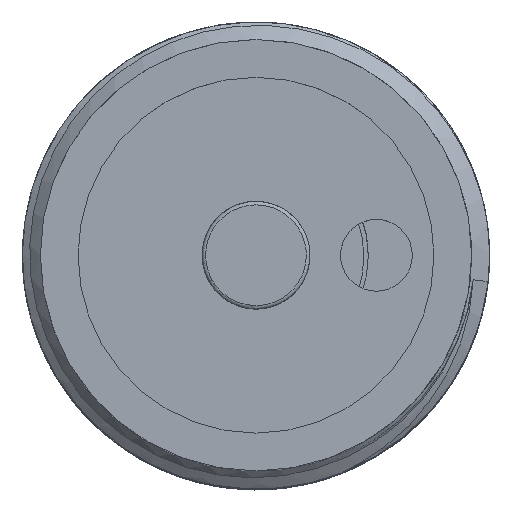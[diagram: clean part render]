
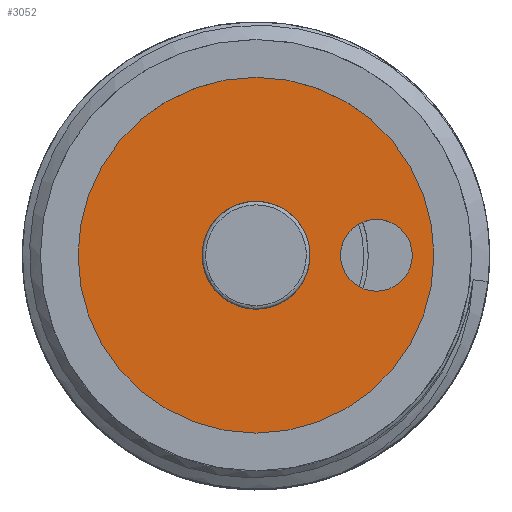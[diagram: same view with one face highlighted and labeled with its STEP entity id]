
A CAD part, top view. The second image highlights one B-rep face of the part: STEP entity #3052.
In plain terms, the highlighted planar face has unit normal (0, 0, 1).
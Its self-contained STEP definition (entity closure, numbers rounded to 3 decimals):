
#2888=PLANE('',#6390);
#3052=ADVANCED_FACE('',(#3361,#3362,#3363),#2888,.F.);
#3361=FACE_BOUND('',#3470,.T.);
#3362=FACE_BOUND('',#3471,.T.);
#3363=FACE_BOUND('',#3472,.T.);
#3470=EDGE_LOOP('',(#3805));
#3471=EDGE_LOOP('',(#3806));
#3472=EDGE_LOOP('',(#3807));
#3805=ORIENTED_EDGE('',*,*,#5631,.F.);
#3806=ORIENTED_EDGE('',*,*,#5633,.F.);
#3807=ORIENTED_EDGE('',*,*,#5635,.F.);
#5162=VERTEX_POINT('',#7697);
#5164=VERTEX_POINT('',#7702);
#5166=VERTEX_POINT('',#7707);
#5631=EDGE_CURVE('',#5162,#5162,#6312,.T.);
#5633=EDGE_CURVE('',#5164,#5164,#6314,.T.);
#5635=EDGE_CURVE('',#5166,#5166,#6316,.T.);
#6312=CIRCLE('',#6382,2.);
#6314=CIRCLE('',#6385,2.);
#6316=CIRCLE('',#6388,10.1);
#6382=AXIS2_PLACEMENT_3D('',#7696,#6657,#6658);
#6385=AXIS2_PLACEMENT_3D('',#7701,#6663,#6664);
#6388=AXIS2_PLACEMENT_3D('',#7706,#6669,#6670);
#6390=AXIS2_PLACEMENT_3D('',#7709,#6673,#6674);
#6657=DIRECTION('',(0.,0.,1.));
#6658=DIRECTION('',(0.,-1.,0.));
#6663=DIRECTION('',(0.,0.,1.));
#6664=DIRECTION('',(0.,-1.,0.));
#6669=DIRECTION('',(0.,0.,-1.));
#6670=DIRECTION('',(0.,-1.,0.));
#6673=DIRECTION('',(0.,0.,-1.));
#6674=DIRECTION('',(0.,1.,0.));
#7696=CARTESIAN_POINT('',(22.171,14.714,0.));
#7697=CARTESIAN_POINT('',(22.171,12.714,0.));
#7701=CARTESIAN_POINT('',(15.471,14.714,0.));
#7702=CARTESIAN_POINT('',(15.471,12.714,0.));
#7706=CARTESIAN_POINT('',(15.471,14.714,0.));
#7707=CARTESIAN_POINT('',(15.471,4.614,0.));
#7709=CARTESIAN_POINT('',(15.471,14.714,0.));
